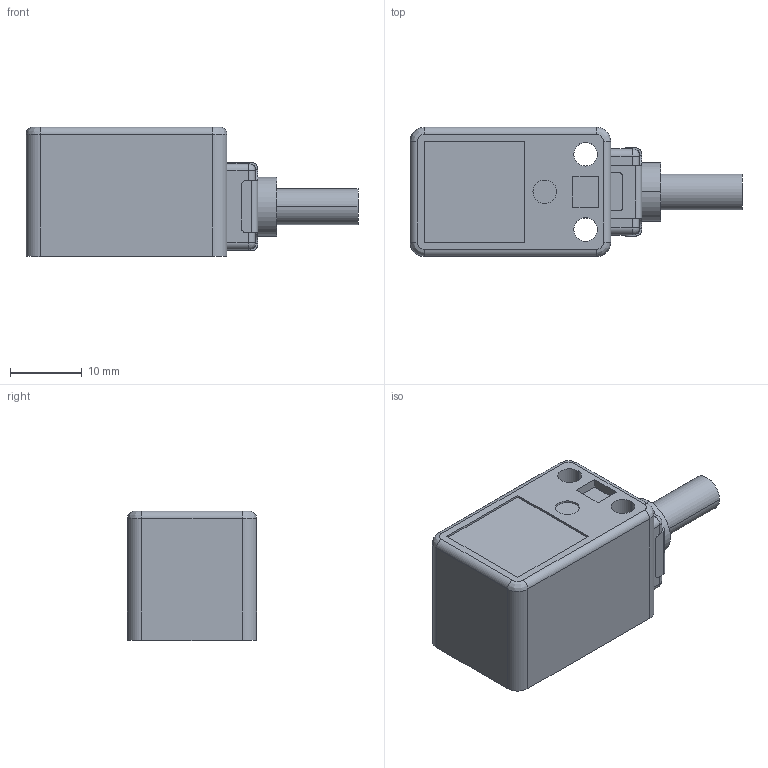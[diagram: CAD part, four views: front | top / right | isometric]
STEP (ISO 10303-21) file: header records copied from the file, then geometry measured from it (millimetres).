
FILE_DESCRIPTION((''),'2;1');
FILE_NAME('SL-18HN1_ASM','2020-05-19T15:44:19',('Administrator'),(''),'CREO PARAMETRIC BY PTC INC, 2019224','CREO PARAMETRIC BY PTC INC, 2019224','');
FILE_SCHEMA(('CONFIG_CONTROL_DESIGN'));
Length unit declared in the file: millimetre
Products named in the file (3): 1-1; 0; SL-18HN1_ASM
Assembly tree (2 placements, depth 2):
  SL-18HN1_ASM
    1-1
    0
Bounding box: 46.3 x 18 x 18.09 mm (x, y, z)
Volume: 9608.8 mm3; surface area: 3782.5 mm2
Topology: 2 solids, 2 shells, 152 faces, 386 edges, 248 vertices
Faces by surface type: plane 70, cylinder 66, torus 8, bspline 4, sphere 4
Entity records: 4750 total; most frequent: CARTESIAN_POINT 851, DIRECTION 844, ORIENTED_EDGE 772, EDGE_CURVE 386, AXIS2_PLACEMENT_3D 305, VERTEX_POINT 248, VECTOR 234, LINE 234
